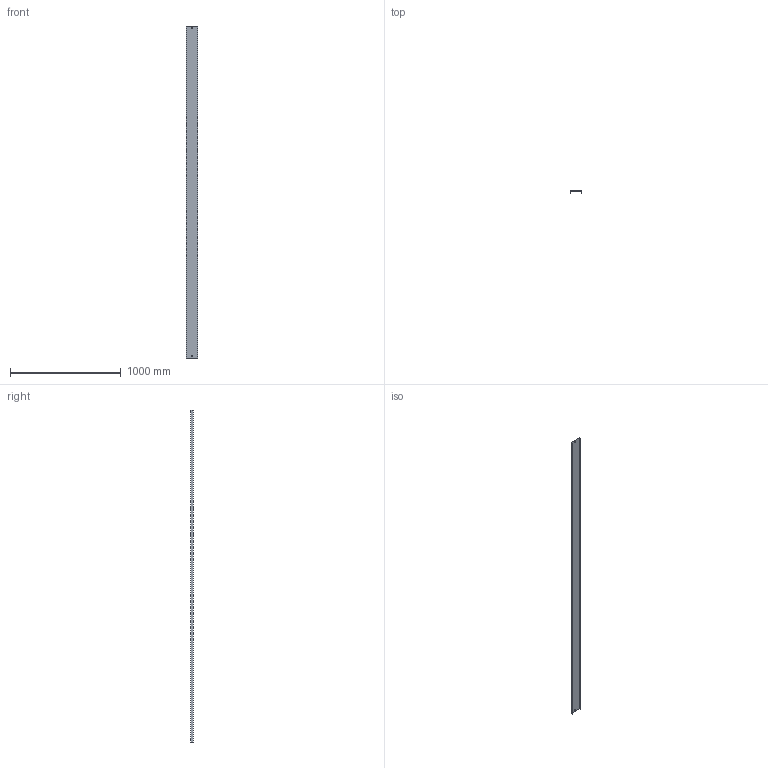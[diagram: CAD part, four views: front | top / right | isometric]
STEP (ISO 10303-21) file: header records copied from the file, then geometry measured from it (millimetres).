
FILE_DESCRIPTION (( 'STEP AP214' ), '1' );
FILE_NAME ('05N3R100.step', '2025-02-21T09:59:18', ( '' ), ( '' ), 'SwSTEP 2.0', 'SolidWorks 2023', '' );
FILE_SCHEMA (( 'AUTOMOTIVE_DESIGN' ));
Length unit declared in the file: millimetre
Products named in the file (1): 05N3R100
Bounding box: 107 x 20 x 3000 mm (x, y, z)
Volume: 647824.5 mm3; surface area: 873291 mm2
Topology: 1 solids, 1 shells, 18 faces, 48 edges, 32 vertices
Faces by surface type: plane 18
Entity records: 583 total; most frequent: CARTESIAN_POINT 99, ORIENTED_EDGE 96, DIRECTION 86, VECTOR 48, LINE 48, EDGE_CURVE 48, VERTEX_POINT 32, EDGE_LOOP 22
